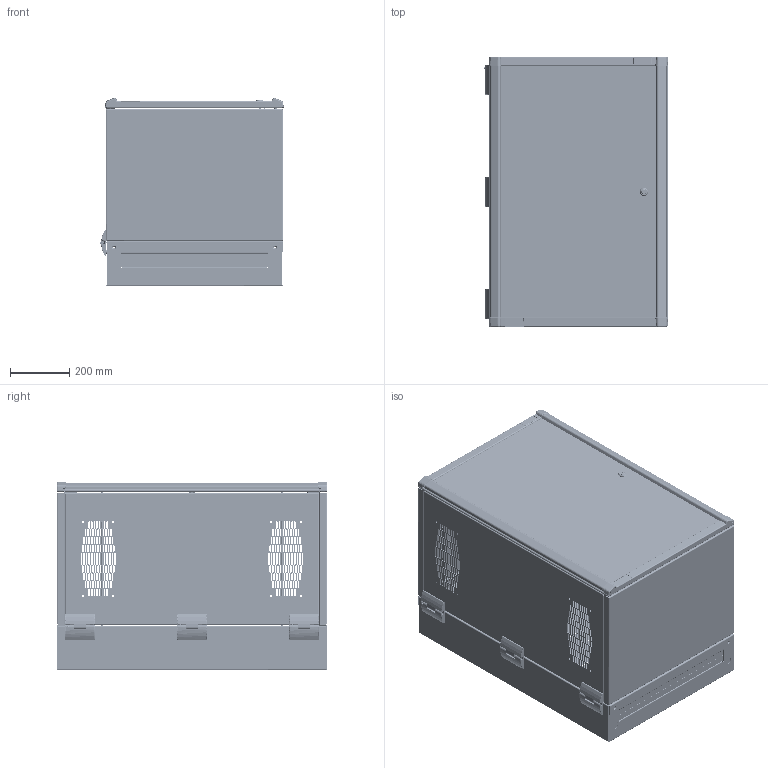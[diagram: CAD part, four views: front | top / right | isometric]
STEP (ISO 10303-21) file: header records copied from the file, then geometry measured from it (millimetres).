
FILE_DESCRIPTION (( 'STEP AP203' ), '1' );
FILE_NAME ('ewmwg362425.STEP', '2018-06-12T19:55:37', ( '' ), ( '' ), 'SwSTEP 2.0', 'SolidWorks 2014', '' );
FILE_SCHEMA (( 'CONFIG_CONTROL_DESIGN' ));
Length unit declared in the file: millimetre
Products named in the file (33): ewmwg362425; 89066977_AS REAMED; 87936925_87936925; 87931293_87931293; 87931311_87931311; 87540581; 87933969; 87931299_87931299; 87934414_87934414; 89066978; 87931593; 87933389_Access Plus wdo dr; 87934412_87934412; 89066979_WITH STAKE; 87931598; 99414156; 87934416_87934416; 89091800; 87932393_87932393; 87937614_Access Plus wdo dr; 87934148_87931289; 89066980; 87935075; 87928600; 87933470_87931287; 60127314; 87936875; 89069243; 87937812; 89113746; 89072123_87931339; 87934215; 87931285_87931285
Assembly tree (74 placements, depth 4):
  ewmwg362425
    87934416_87934416
      87931311_87931311  x2
      87934414_87934414
      87934412_87934412
    87934215
      87934148_87931289
      87933470_87931287  x2
      87937812
      87931285_87931285  x2
      87931293_87931293  x2
      87931299_87931299  x2
      87937614_Access Plus wdo dr
        87933389_Access Plus wdo dr
        99414156
      87928600
      89069243  x8
    87936925_87936925
    87933969  x2
    87931593  x2
    87931598  x2
    87932393_87932393  x2
    87935075  x2
    87936875  x4
    89072123_87931339  x2
    89066978  x3
      89066977_AS REAMED
      87540581
    89066980  x3
      89066979_WITH STAKE
      89091800
      87540581
    60127314  x12
    89113746  x3
Bounding box: 622.75 x 917.64 x 637.17 mm (x, y, z)
Volume: 11103616.2 mm3; surface area: 8314263.1 mm2
Topology: 138 solids, 138 shells, 12645 faces, 32985 edges, 20539 vertices
Faces by surface type: plane 4955, cylinder 4808, bspline 1320, torus 648, cone 567, sphere 347
Entity records: 265274 total; most frequent: CARTESIAN_POINT 76227, ORIENTED_EDGE 39388, DIRECTION 37791, EDGE_CURVE 19694, AXIS2_PLACEMENT_3D 13460, VERTEX_POINT 12449, VECTOR 10871, LINE 10871
